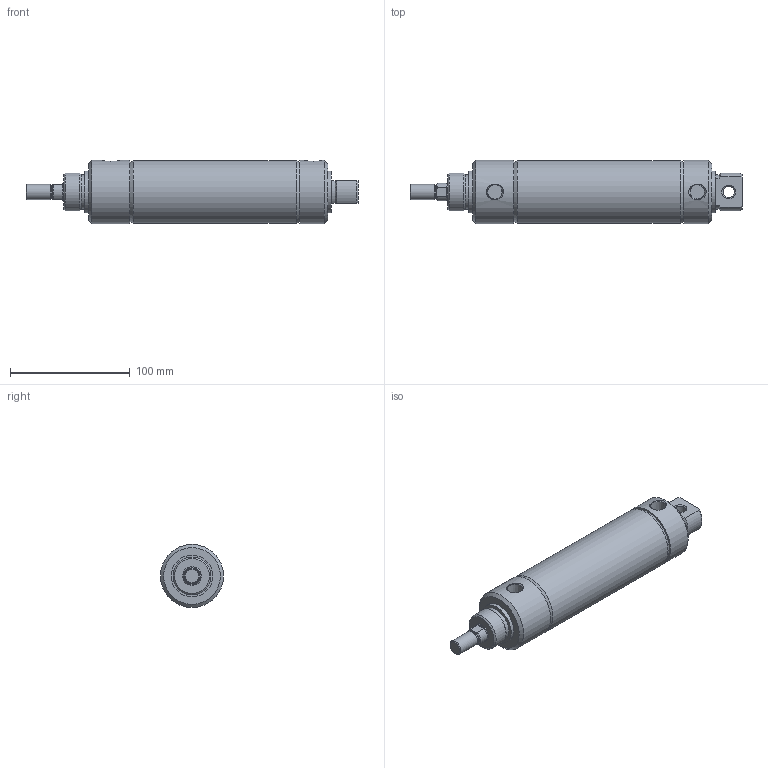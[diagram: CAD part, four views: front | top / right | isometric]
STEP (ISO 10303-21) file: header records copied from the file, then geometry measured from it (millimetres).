
FILE_DESCRIPTION( ( 'STEP AP214' ), '1' );
FILE_NAME( 'p:/temp/worker_508/temp/exporttempdir_1576_273_tiR6Y/format_0/2000D02-04A-03.stp', '2020-05-07T19:18:58', ( 'License CC BY-ND 4.0' ), ( 'CADENAS' ), ' ', 'PARTsolutions', ' ' );
FILE_SCHEMA( ( 'AUTOMOTIVE_DESIGN { 1 0 10303 214 1 1 1 1 }' ) );
Length unit declared in the file: inch
Products named in the file (3): 2000D02-04A-03; _2000D02-04A-0300A00A0b; _2000D02-04A-0300A00A0r
Assembly tree (2 placements, depth 2):
  2000D02-04A-03
    _2000D02-04A-0300A00A0b
    _2000D02-04A-0300A00A0r
Bounding box: 277.83 x 52.78 x 52.78 mm (x, y, z)
Volume: 278074.1 mm3; surface area: 90911.2 mm2
Topology: 2 solids, 2 shells, 65 faces, 127 edges, 79 vertices
Faces by surface type: plane 23, cone 21, cylinder 21
Full cylindrical faces by diameter (mm): 9.525 x1, 11.189 x1, 12.7 x1, 15.875 x3, 29.23 x1, 31.75 x1, 34.925 x2, 50.8 x2, 52.578 x1, 52.781 x2
Entity records: 2254 total; most frequent: CARTESIAN_POINT 454, DIRECTION 276, ORIENTED_EDGE 188, AXIS2_PLACEMENT_3D 128, EDGE_LOOP 110, EDGE_CURVE 94, FACE_OUTER_BOUND 80, VERTEX_POINT 76
